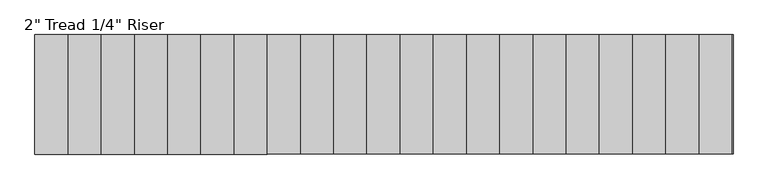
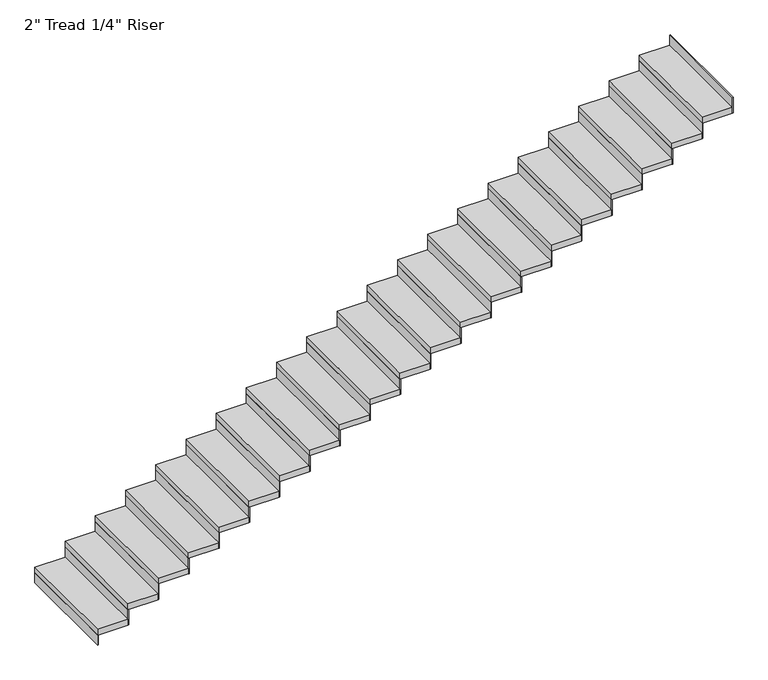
"""IFC4 building model written with IfcOpenShell, lengths in millimetres: stair flight geometry."""

from ifc_helpers import new_model, si_unit, frame, origin, origin_with_axes, place, context, project, spatial, polyline, outline, extrude, source, transform, mapped, element, save


def stair_flight_cf73235f(model_context):
    return source(origin(), model_context, "Body", "SweptSolid", [
        extrude(outline(polyline([(60465.3810647, -35593.481782), (60459.0310647, -35593.481782), (60459.0310647, -34679.081782), (60465.3810647, -34679.081782), (60465.3810647, -35593.481782)])), origin_with_axes(), (0.0, 0.0, 1.0), 87.7454545),
        extrude(outline(polyline([(60713.0310647, -34679.081782), (60713.0310647, -35593.481782), (60459.0310647, -35593.481782), (60459.0310647, -34679.081782), (60713.0310647, -34679.081782)])), frame((0.0, 0.0, 87.7454545), z_axis=(0.0, 0.0, 1.0), x_axis=(1.0, 0.0, 0.0)), (0.0, 0.0, 1.0), 50.8),
        extrude(outline(polyline([(60719.3810647, -35593.481782), (60713.0310647, -35593.481782), (60713.0310647, -34679.081782), (60719.3810647, -34679.081782), (60719.3810647, -35593.481782)])), frame((0.0, 0.0, 87.7454545), z_axis=(0.0, 0.0, 1.0), x_axis=(1.0, 0.0, 0.0)), (0.0, 0.0, 1.0), 138.5454545),
        extrude(outline(polyline([(60967.0310647, -34679.081782), (60967.0310647, -35593.481782), (60713.0310647, -35593.481782), (60713.0310647, -34679.081782), (60967.0310647, -34679.081782)])), frame((0.0, 0.0, 226.2909091), z_axis=(0.0, 0.0, 1.0), x_axis=(1.0, 0.0, 0.0)), (0.0, 0.0, 1.0), 50.8),
        extrude(outline(polyline([(60973.3810647, -35593.481782), (60967.0310647, -35593.481782), (60967.0310647, -34679.081782), (60973.3810647, -34679.081782), (60973.3810647, -35593.481782)])), frame((0.0, 0.0, 226.2909091), z_axis=(0.0, 0.0, 1.0), x_axis=(1.0, 0.0, 0.0)), (0.0, 0.0, 1.0), 138.5454545),
        extrude(outline(polyline([(61221.0310647, -34679.081782), (61221.0310647, -35593.481782), (60967.0310647, -35593.481782), (60967.0310647, -34679.081782), (61221.0310647, -34679.081782)])), frame((0.0, 0.0, 364.8363636), z_axis=(0.0, 0.0, 1.0), x_axis=(1.0, 0.0, 0.0)), (0.0, 0.0, 1.0), 50.8),
        extrude(outline(polyline([(61227.3810647, -35593.481782), (61221.0310647, -35593.481782), (61221.0310647, -34679.081782), (61227.3810647, -34679.081782), (61227.3810647, -35593.481782)])), frame((0.0, 0.0, 364.8363636), z_axis=(0.0, 0.0, 1.0), x_axis=(1.0, 0.0, 0.0)), (0.0, 0.0, 1.0), 138.5454545),
        extrude(outline(polyline([(61475.0310647, -34679.081782), (61475.0310647, -35593.481782), (61221.0310647, -35593.481782), (61221.0310647, -34679.081782), (61475.0310647, -34679.081782)])), frame((0.0, 0.0, 503.3818182), z_axis=(0.0, 0.0, 1.0), x_axis=(1.0, 0.0, 0.0)), (0.0, 0.0, 1.0), 50.8),
        extrude(outline(polyline([(61481.3810647, -35593.481782), (61475.0310647, -35593.481782), (61475.0310647, -34679.081782), (61481.3810647, -34679.081782), (61481.3810647, -35593.481782)])), frame((0.0, 0.0, 503.3818182), z_axis=(0.0, 0.0, 1.0), x_axis=(1.0, 0.0, 0.0)), (0.0, 0.0, 1.0), 138.5454545),
        extrude(outline(polyline([(61729.0310647, -34679.081782), (61729.0310647, -35593.481782), (61475.0310647, -35593.481782), (61475.0310647, -34679.081782), (61729.0310647, -34679.081782)])), frame((0.0, 0.0, 641.9272727), z_axis=(0.0, 0.0, 1.0), x_axis=(1.0, 0.0, 0.0)), (0.0, 0.0, 1.0), 50.8),
        extrude(outline(polyline([(61735.3810647, -35593.481782), (61729.0310647, -35593.481782), (61729.0310647, -34679.081782), (61735.3810647, -34679.081782), (61735.3810647, -35593.481782)])), frame((0.0, 0.0, 641.9272727), z_axis=(0.0, 0.0, 1.0), x_axis=(1.0, 0.0, 0.0)), (0.0, 0.0, 1.0), 138.5454545),
        extrude(outline(polyline([(61983.0310647, -34679.081782), (61983.0310647, -35593.481782), (61729.0310647, -35593.481782), (61729.0310647, -34679.081782), (61983.0310647, -34679.081782)])), frame((0.0, 0.0, 780.4727273), z_axis=(0.0, 0.0, 1.0), x_axis=(1.0, 0.0, 0.0)), (0.0, 0.0, 1.0), 50.8),
        extrude(outline(polyline([(61989.3810647, -35593.481782), (61983.0310647, -35593.481782), (61983.0310647, -34679.081782), (61989.3810647, -34679.081782), (61989.3810647, -35593.481782)])), frame((0.0, 0.0, 780.4727273), z_axis=(0.0, 0.0, 1.0), x_axis=(1.0, 0.0, 0.0)), (0.0, 0.0, 1.0), 138.5454545),
        extrude(outline(polyline([(62237.0310647, -34679.081782), (62237.0310647, -35593.481782), (61983.0310647, -35593.481782), (61983.0310647, -34679.081782), (62237.0310647, -34679.081782)])), frame((0.0, 0.0, 919.0181818), z_axis=(0.0, 0.0, 1.0), x_axis=(1.0, 0.0, 0.0)), (0.0, 0.0, 1.0), 50.8),
        extrude(outline(polyline([(62243.3810647, -35593.481782), (62237.0310647, -35593.481782), (62237.0310647, -34679.081782), (62243.3810647, -34679.081782), (62243.3810647, -35593.481782)])), frame((0.0, 0.0, 919.0181818), z_axis=(0.0, 0.0, 1.0), x_axis=(1.0, 0.0, 0.0)), (0.0, 0.0, 1.0), 138.5454545),
        extrude(outline(polyline([(62491.0310647, -34679.081782), (62491.0310647, -35593.481782), (62237.0310647, -35593.481782), (62237.0310647, -34679.081782), (62491.0310647, -34679.081782)])), frame((0.0, 0.0, 1057.5636364), z_axis=(0.0, 0.0, 1.0), x_axis=(1.0, 0.0, 0.0)), (0.0, 0.0, 1.0), 50.8),
        extrude(outline(polyline([(62497.3810647, -35593.481782), (62491.0310647, -35593.481782), (62491.0310647, -34679.081782), (62497.3810647, -34679.081782), (62497.3810647, -35593.481782)])), frame((0.0, 0.0, 1057.5636364), z_axis=(0.0, 0.0, 1.0), x_axis=(1.0, 0.0, 0.0)), (0.0, 0.0, 1.0), 138.5454545),
        extrude(outline(polyline([(62745.0310647, -34679.081782), (62745.0310647, -35593.481782), (62491.0310647, -35593.481782), (62491.0310647, -34679.081782), (62745.0310647, -34679.081782)])), frame((0.0, 0.0, 1196.1090909), z_axis=(0.0, 0.0, 1.0), x_axis=(1.0, 0.0, 0.0)), (0.0, 0.0, 1.0), 50.8),
        extrude(outline(polyline([(62751.3810647, -35593.481782), (62745.0310647, -35593.481782), (62745.0310647, -34679.081782), (62751.3810647, -34679.081782), (62751.3810647, -35593.481782)])), frame((0.0, 0.0, 1196.1090909), z_axis=(0.0, 0.0, 1.0), x_axis=(1.0, 0.0, 0.0)), (0.0, 0.0, 1.0), 138.5454545),
        extrude(outline(polyline([(62999.0310647, -34679.081782), (62999.0310647, -35593.481782), (62745.0310647, -35593.481782), (62745.0310647, -34679.081782), (62999.0310647, -34679.081782)])), frame((0.0, 0.0, 1334.6545455), z_axis=(0.0, 0.0, 1.0), x_axis=(1.0, 0.0, 0.0)), (0.0, 0.0, 1.0), 50.8),
        extrude(outline(polyline([(63005.3810647, -35593.481782), (62999.0310647, -35593.481782), (62999.0310647, -34679.081782), (63005.3810647, -34679.081782), (63005.3810647, -35593.481782)])), frame((0.0, 0.0, 1334.6545455), z_axis=(0.0, 0.0, 1.0), x_axis=(1.0, 0.0, 0.0)), (0.0, 0.0, 1.0), 138.5454545),
        extrude(outline(polyline([(63253.0310647, -34679.081782), (63253.0310647, -35593.481782), (62999.0310647, -35593.481782), (62999.0310647, -34679.081782), (63253.0310647, -34679.081782)])), frame((0.0, 0.0, 1473.2), z_axis=(0.0, 0.0, 1.0), x_axis=(1.0, 0.0, 0.0)), (0.0, 0.0, 1.0), 50.8),
        extrude(outline(polyline([(63259.3810647, -35593.481782), (63253.0310647, -35593.481782), (63253.0310647, -34679.081782), (63259.3810647, -34679.081782), (63259.3810647, -35593.481782)])), frame((0.0, 0.0, 1473.2), z_axis=(0.0, 0.0, 1.0), x_axis=(1.0, 0.0, 0.0)), (0.0, 0.0, 1.0), 138.5454545),
        extrude(outline(polyline([(63507.0310647, -34679.081782), (63507.0310647, -35593.481782), (63253.0310647, -35593.481782), (63253.0310647, -34679.081782), (63507.0310647, -34679.081782)])), frame((0.0, 0.0, 1611.7454545), z_axis=(0.0, 0.0, 1.0), x_axis=(1.0, 0.0, 0.0)), (0.0, 0.0, 1.0), 50.8),
        extrude(outline(polyline([(63513.3810647, -35593.481782), (63507.0310647, -35593.481782), (63507.0310647, -34679.081782), (63513.3810647, -34679.081782), (63513.3810647, -35593.481782)])), frame((0.0, 0.0, 1611.7454545), z_axis=(0.0, 0.0, 1.0), x_axis=(1.0, 0.0, 0.0)), (0.0, 0.0, 1.0), 138.5454545),
        extrude(outline(polyline([(63761.0310647, -34679.081782), (63761.0310647, -35593.481782), (63507.0310647, -35593.481782), (63507.0310647, -34679.081782), (63761.0310647, -34679.081782)])), frame((0.0, 0.0, 1750.2909091), z_axis=(0.0, 0.0, 1.0), x_axis=(1.0, 0.0, 0.0)), (0.0, 0.0, 1.0), 50.8),
        extrude(outline(polyline([(63767.3810647, -35593.481782), (63761.0310647, -35593.481782), (63761.0310647, -34679.081782), (63767.3810647, -34679.081782), (63767.3810647, -35593.481782)])), frame((0.0, 0.0, 1750.2909091), z_axis=(0.0, 0.0, 1.0), x_axis=(1.0, 0.0, 0.0)), (0.0, 0.0, 1.0), 138.5454545),
        extrude(outline(polyline([(64015.0310647, -34679.081782), (64015.0310647, -35593.481782), (63761.0310647, -35593.481782), (63761.0310647, -34679.081782), (64015.0310647, -34679.081782)])), frame((0.0, 0.0, 1888.8363636), z_axis=(0.0, 0.0, 1.0), x_axis=(1.0, 0.0, 0.0)), (0.0, 0.0, 1.0), 50.8),
        extrude(outline(polyline([(64021.3810647, -35593.481782), (64015.0310647, -35593.481782), (64015.0310647, -34679.081782), (64021.3810647, -34679.081782), (64021.3810647, -35593.481782)])), frame((0.0, 0.0, 1888.8363636), z_axis=(0.0, 0.0, 1.0), x_axis=(1.0, 0.0, 0.0)), (0.0, 0.0, 1.0), 138.5454545),
        extrude(outline(polyline([(64269.0310647, -34679.081782), (64269.0310647, -35593.481782), (64015.0310647, -35593.481782), (64015.0310647, -34679.081782), (64269.0310647, -34679.081782)])), frame((0.0, 0.0, 2027.3818182), z_axis=(0.0, 0.0, 1.0), x_axis=(1.0, 0.0, 0.0)), (0.0, 0.0, 1.0), 50.8),
        extrude(outline(polyline([(64275.3810647, -35593.481782), (64269.0310647, -35593.481782), (64269.0310647, -34679.081782), (64275.3810647, -34679.081782), (64275.3810647, -35593.481782)])), frame((0.0, 0.0, 2027.3818182), z_axis=(0.0, 0.0, 1.0), x_axis=(1.0, 0.0, 0.0)), (0.0, 0.0, 1.0), 138.5454545),
        extrude(outline(polyline([(64523.0310647, -34679.081782), (64523.0310647, -35593.481782), (64269.0310647, -35593.481782), (64269.0310647, -34679.081782), (64523.0310647, -34679.081782)])), frame((0.0, 0.0, 2165.9272727), z_axis=(0.0, 0.0, 1.0), x_axis=(1.0, 0.0, 0.0)), (0.0, 0.0, 1.0), 50.8),
        extrude(outline(polyline([(64529.3810647, -35593.481782), (64523.0310647, -35593.481782), (64523.0310647, -34679.081782), (64529.3810647, -34679.081782), (64529.3810647, -35593.481782)])), frame((0.0, 0.0, 2165.9272727), z_axis=(0.0, 0.0, 1.0), x_axis=(1.0, 0.0, 0.0)), (0.0, 0.0, 1.0), 138.5454545),
        extrude(outline(polyline([(64777.0310647, -34679.081782), (64777.0310647, -35593.481782), (64523.0310647, -35593.481782), (64523.0310647, -34679.081782), (64777.0310647, -34679.081782)])), frame((0.0, 0.0, 2304.4727273), z_axis=(0.0, 0.0, 1.0), x_axis=(1.0, 0.0, 0.0)), (0.0, 0.0, 1.0), 50.8),
        extrude(outline(polyline([(64783.3810647, -35593.481782), (64777.0310647, -35593.481782), (64777.0310647, -34679.081782), (64783.3810647, -34679.081782), (64783.3810647, -35593.481782)])), frame((0.0, 0.0, 2304.4727273), z_axis=(0.0, 0.0, 1.0), x_axis=(1.0, 0.0, 0.0)), (0.0, 0.0, 1.0), 138.5454545),
        extrude(outline(polyline([(65031.0310647, -34679.081782), (65031.0310647, -35593.481782), (64777.0310647, -35593.481782), (64777.0310647, -34679.081782), (65031.0310647, -34679.081782)])), frame((0.0, 0.0, 2443.0181818), z_axis=(0.0, 0.0, 1.0), x_axis=(1.0, 0.0, 0.0)), (0.0, 0.0, 1.0), 50.8),
        extrude(outline(polyline([(65037.3810647, -35593.481782), (65031.0310647, -35593.481782), (65031.0310647, -34679.081782), (65037.3810647, -34679.081782), (65037.3810647, -35593.481782)])), frame((0.0, 0.0, 2443.0181818), z_axis=(0.0, 0.0, 1.0), x_axis=(1.0, 0.0, 0.0)), (0.0, 0.0, 1.0), 138.5454545),
        extrude(outline(polyline([(65285.0310647, -34679.081782), (65285.0310647, -35593.481782), (65031.0310647, -35593.481782), (65031.0310647, -34679.081782), (65285.0310647, -34679.081782)])), frame((0.0, 0.0, 2581.5636364), z_axis=(0.0, 0.0, 1.0), x_axis=(1.0, 0.0, 0.0)), (0.0, 0.0, 1.0), 50.8),
        extrude(outline(polyline([(65291.3810647, -35593.481782), (65285.0310647, -35593.481782), (65285.0310647, -34679.081782), (65291.3810647, -34679.081782), (65291.3810647, -35593.481782)])), frame((0.0, 0.0, 2581.5636364), z_axis=(0.0, 0.0, 1.0), x_axis=(1.0, 0.0, 0.0)), (0.0, 0.0, 1.0), 138.5454545),
        extrude(outline(polyline([(65539.0310647, -34679.081782), (65539.0310647, -35593.481782), (65285.0310647, -35593.481782), (65285.0310647, -34679.081782), (65539.0310647, -34679.081782)])), frame((0.0, 0.0, 2720.1090909), z_axis=(0.0, 0.0, 1.0), x_axis=(1.0, 0.0, 0.0)), (0.0, 0.0, 1.0), 50.8),
        extrude(outline(polyline([(65545.3810647, -35593.481782), (65539.0310647, -35593.481782), (65539.0310647, -34679.081782), (65545.3810647, -34679.081782), (65545.3810647, -35593.481782)])), frame((0.0, 0.0, 2720.1090909), z_axis=(0.0, 0.0, 1.0), x_axis=(1.0, 0.0, 0.0)), (0.0, 0.0, 1.0), 138.5454545),
        extrude(outline(polyline([(65799.3810647, -35593.481782), (65793.0310647, -35593.481782), (65793.0310647, -34679.081782), (65799.3810647, -34679.081782), (65799.3810647, -35593.481782)])), frame((0.0, 0.0, 2858.6545455), z_axis=(0.0, 0.0, 1.0), x_axis=(1.0, 0.0, 0.0)), (0.0, 0.0, 1.0), 138.5454545),
        extrude(outline(polyline([(65793.0310647, -34679.081782), (65793.0310647, -35593.481782), (65539.0310647, -35593.481782), (65539.0310647, -34679.081782), (65793.0310647, -34679.081782)])), frame((0.0, 0.0, 2858.6545455), z_axis=(0.0, 0.0, 1.0), x_axis=(1.0, 0.0, 0.0)), (0.0, 0.0, 1.0), 50.8),
    ])


if __name__ == "__main__":
    model = new_model("IFC4")
    model_context = context("Model", 3, world=origin())
    ifc_project = project(units=[si_unit("LENGTHUNIT", "METRE", prefix="MILLI")], contexts=[model_context])
    site = spatial("IfcSite", under=ifc_project)
    building = spatial("IfcBuilding", under=site)
    placement = place(None, origin())
    stair_flight_shape = stair_flight_cf73235f(model_context)
    element("IfcStairFlight", 1, ObjectType="2\" Tread 1/4\" Riser", at=placement, inside=building, context=model_context, shape_type="MappedRepresentation", body=[
        mapped(stair_flight_shape, transform((0.0, 0.0, 0.0), x_axis=(1.0, 0.0, 0.0), y_axis=(0.0, 1.0, 0.0), z_axis=(0.0, 0.0, 1.0))),
    ])
    save(model, "model.ifc")
